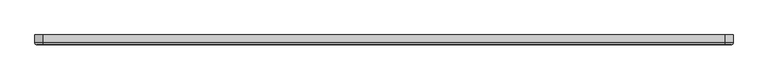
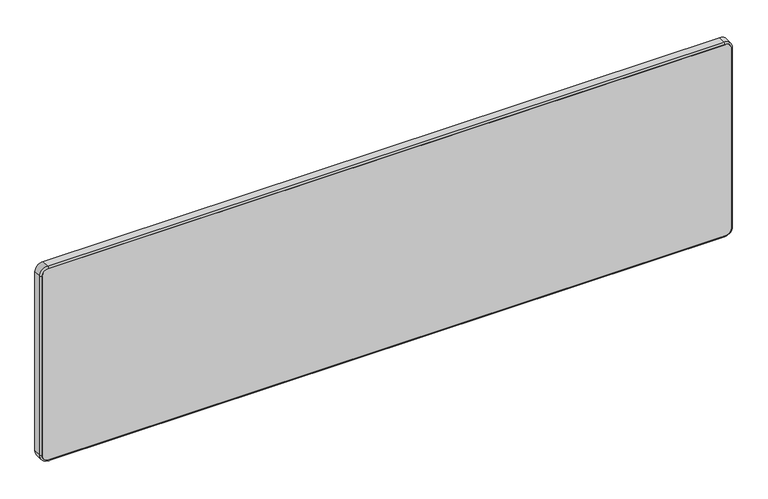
"""IFC4 building model written with IfcOpenShell, lengths in millimetres: furniture geometry, Stance_HC-Camber-Board : SK600E-DFB."""

from ifc_helpers import new_model, si_unit, point, frame, frame_2d, origin, place, context, project, spatial, polyline, circle_curve, ellipse_curve, trimmed, segment, composite_curve, outline, extrude, source, transform, mapped, element, save
from ifc_brep_helpers import plane_surface, cylinder_surface, revolved_surface, advanced_brep


def furniture_9835b887(model_context):
    return source(origin(), model_context, "Body", "SolidModel", [
        extrude(outline(composite_curve([segment(polyline([(403.2249758, 669.925), (403.2249758, -669.925)]), True, "CONTINUOUS"), segment(trimmed(circle_curve(frame_2d((390.525, -669.925)), 12.6999758), [point((403.2249758, -669.925))], [point((390.525, -682.6249758))], False, "CARTESIAN"), True, "CONTINUOUS"), segment(polyline([(390.525, -682.6249758), (15.875, -682.6249758)]), True, "CONTINUOUS"), segment(trimmed(circle_curve(frame_2d((15.875, -669.925)), 12.6999758), [point((15.875, -682.6249758))], [point((3.1750242, -669.925))], False, "CARTESIAN"), True, "CONTINUOUS"), segment(polyline([(3.1750242, -669.925), (3.1750242, 669.925)]), True, "CONTINUOUS"), segment(trimmed(circle_curve(frame_2d((15.875, 669.925)), 12.6999758), [point((3.1750242, 669.925))], [point((15.875, 682.6249758))], False, "CARTESIAN"), True, "CONTINUOUS"), segment(polyline([(15.875, 682.6249758), (390.525, 682.6249758)]), True, "CONTINUOUS"), segment(trimmed(circle_curve(frame_2d((390.525, 669.925)), 12.6999758), [point((390.525, 682.6249758))], [point((403.2249758, 669.925))], False, "CARTESIAN"), True, "CONTINUOUS")], self_intersect=False)), frame((0.0, -19.05, 0.0), z_axis=(0.0, 1.0, 0.0), x_axis=(0.0, 0.0, 1.0)), (0.0, 0.0, 1.0), 19.05),
        advanced_brep(
        [(682.6249758, -19.05, 390.525), (669.925, -19.05, 403.2249758), (669.925, 0.0, 403.2249758), (682.6249758, 0.0, 390.525), (685.8, -15.8749996, 390.525), (669.925, -15.8749996, 406.4), (685.8, 0.0, 390.525), (669.925, 0.0, 406.4), (682.6249758, 0.0, 15.875), (682.6249758, -19.05, 15.875), (685.8, -15.8749996, 15.875), (685.8, 0.0, 15.875), (669.925, -19.05, 3.1750242), (669.925, 0.0, 3.1750242), (669.925, -15.8749996, 0.0), (669.925, 0.0, 0.0), (-669.925, 0.0, 3.1750242), (-669.925, -19.05, 3.1750242), (-669.925, -15.8749996, 0.0), (-669.925, 0.0, 0.0), (-682.6249758, -19.05, 15.875), (-682.6249758, 0.0, 15.875), (-685.8, -15.8749996, 15.875), (-685.8, 0.0, 15.875), (-682.6249758, 0.0, 390.525), (-682.6249758, -19.05, 390.525), (-685.8, -15.8749996, 390.525), (-685.8, 0.0, 390.525), (-669.925, -19.05, 403.2249758), (-669.925, 0.0, 403.2249758), (-669.925, -15.8749996, 406.4), (-669.925, 0.0, 406.4)],
        [
            (0, 1, circle_curve(frame((669.925, -19.05, 390.525), z_axis=(0.0, -1.0, 0.0), x_axis=(0.0, 0.0, 1.0)), 12.6999758)),
            (1, 2),
            (2, 3, circle_curve(frame((669.925, 0.0, 390.525), z_axis=(0.0, 1.0, 0.0), x_axis=(0.0, 0.0, 1.0)), 12.6999758)),
            (3, 0),
            (4, 5, circle_curve(frame((669.925, -15.8749996, 390.525), z_axis=(0.0, -1.0, 0.0), x_axis=(0.0, 0.0, 1.0)), 15.875)),
            (5, 1, circle_curve(frame((669.925, -15.8749996, 403.2249996), z_axis=(1.0, 0.0, 0.0), x_axis=(0.0, 0.0, 1.0)), 3.1750004)),
            (0, 4, circle_curve(frame((682.6249996, -15.8749996, 390.525), z_axis=(0.0, 0.0, 1.0), x_axis=(1.0, 0.0, 0.0)), 3.1750004)),
            (6, 7, circle_curve(frame((669.925, 0.0, 390.525), z_axis=(0.0, -1.0, 0.0), x_axis=(0.0, 0.0, 1.0)), 15.875)),
            (7, 5),
            (4, 6),
            (3, 8),
            (8, 9),
            (9, 0),
            (9, 10, circle_curve(frame((682.6249996, -15.8749996, 15.875), z_axis=(0.0, 0.0, 1.0), x_axis=(1.0, 0.0, 0.0)), 3.1750004)),
            (10, 4),
            (10, 11),
            (11, 6),
            (12, 9, circle_curve(frame((669.925, -19.05, 15.875), z_axis=(0.0, -1.0, 0.0), x_axis=(1.0, 0.0, 0.0)), 12.6999758)),
            (8, 13, circle_curve(frame((669.925, 0.0, 15.875), z_axis=(0.0, 1.0, 0.0), x_axis=(1.0, 0.0, 0.0)), 12.6999758)),
            (13, 12),
            (14, 10, circle_curve(frame((669.925, -15.8749996, 15.875), z_axis=(0.0, -1.0, 0.0), x_axis=(1.0, 0.0, 0.0)), 15.875)),
            (12, 14, circle_curve(frame((669.925, -15.8749996, 3.1750004), z_axis=(1.0, 0.0, 0.0), x_axis=(0.0, 0.0, -1.0)), 3.1750004)),
            (15, 11, circle_curve(frame((669.925, 0.0, 15.875), z_axis=(0.0, -1.0, 0.0), x_axis=(1.0, 0.0, 0.0)), 15.875)),
            (14, 15),
            (13, 16),
            (16, 17),
            (17, 12),
            (17, 18, circle_curve(frame((-669.925, -15.8749996, 3.1750004), z_axis=(1.0, 0.0, 0.0), x_axis=(0.0, 0.0, -1.0)), 3.1750004)),
            (18, 14),
            (18, 19),
            (19, 15),
            (20, 17, circle_curve(frame((-669.925, -19.05, 15.875), z_axis=(0.0, -1.0, 0.0), x_axis=(0.0, 0.0, -1.0)), 12.6999758)),
            (16, 21, circle_curve(frame((-669.925, 0.0, 15.875), z_axis=(0.0, 1.0, 0.0), x_axis=(0.0, 0.0, -1.0)), 12.6999758)),
            (21, 20),
            (22, 18, circle_curve(frame((-669.925, -15.8749996, 15.875), z_axis=(0.0, -1.0, 0.0), x_axis=(0.0, 0.0, -1.0)), 15.875)),
            (20, 22, circle_curve(frame((-682.6249996, -15.8749996, 15.875), z_axis=(0.0, 0.0, -1.0), x_axis=(-1.0, 0.0, 0.0)), 3.1750004)),
            (23, 19, circle_curve(frame((-669.925, 0.0, 15.875), z_axis=(0.0, -1.0, 0.0), x_axis=(0.0, 0.0, -1.0)), 15.875)),
            (22, 23),
            (21, 24),
            (24, 25),
            (25, 20),
            (25, 26, circle_curve(frame((-682.6249996, -15.8749996, 390.525), z_axis=(0.0, 0.0, -1.0), x_axis=(-1.0, 0.0, 0.0)), 3.1750004)),
            (26, 22),
            (26, 27),
            (27, 23),
            (28, 25, circle_curve(frame((-669.925, -19.05, 390.525), z_axis=(0.0, -1.0, 0.0), x_axis=(-1.0, 0.0, 0.0)), 12.6999758)),
            (24, 29, circle_curve(frame((-669.925, 0.0, 390.525), z_axis=(0.0, 1.0, 0.0), x_axis=(-1.0, 0.0, 0.0)), 12.6999758)),
            (29, 28),
            (30, 26, circle_curve(frame((-669.925, -15.8749996, 390.525), z_axis=(0.0, -1.0, 0.0), x_axis=(-1.0, 0.0, 0.0)), 15.875)),
            (28, 30, circle_curve(frame((-669.925, -15.8749996, 403.2249996), z_axis=(-1.0, 0.0, 0.0), x_axis=(0.0, 0.0, 1.0)), 3.1750004)),
            (31, 27, circle_curve(frame((-669.925, 0.0, 390.525), z_axis=(0.0, -1.0, 0.0), x_axis=(-1.0, 0.0, 0.0)), 15.875)),
            (30, 31),
            (29, 2),
            (1, 28),
            (5, 30),
            (7, 31),
        ],
        [
            revolved_surface(polyline([(669.925, 0.0, 403.2249758), (669.925, -19.05, 403.2249758)]), (669.925, 0.0, 390.525), (0.0, 1.0, 0.0)),
            revolved_surface(trimmed(ellipse_curve(frame((669.925, -15.8749996, 403.2249996), z_axis=(-1.0, 0.0, 0.0), x_axis=(0.0, 0.0, 1.0)), 3.1750004, 3.1750004), [point((669.925, -19.05, 403.2249758))], [point((669.925, -15.8749996, 406.4))], True, "CARTESIAN"), (669.925, 0.0, 390.525), (0.0, 1.0, 0.0)),
            cylinder_surface(frame((669.925, 0.0, 390.525), z_axis=(0.0, 1.0, 0.0), x_axis=(0.0, 0.0, 1.0)), 15.875),
            plane_surface(frame((682.6249758, 0.0, 390.525), z_axis=(-1.0, 0.0, 0.0), x_axis=(0.0, 0.0, -1.0))),
            cylinder_surface(frame((682.6249996, -15.8749996, 390.525), z_axis=(0.0, 0.0, 1.0), x_axis=(1.0, 0.0, 0.0)), 3.1750004),
            plane_surface(frame((685.8, -15.8749996, 390.525), z_axis=(1.0, 0.0, 0.0), x_axis=(0.0, 0.0, -1.0))),
            revolved_surface(polyline([(682.6249757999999, 0.0, 15.875), (682.6249757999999, -19.05, 15.875)]), (669.925, 0.0, 15.875), (0.0, 1.0, 0.0)),
            revolved_surface(trimmed(ellipse_curve(frame((682.6249996, -15.8749996, 15.875), z_axis=(0.0, 0.0, 1.0), x_axis=(1.0, 0.0, 0.0)), 3.1750004, 3.1750004), [point((682.6249758, -19.05, 15.875))], [point((685.8, -15.8749996, 15.875))], True, "CARTESIAN"), (669.925, 0.0, 15.875), (0.0, 1.0, 0.0)),
            cylinder_surface(frame((669.925, 0.0, 15.875), z_axis=(0.0, 1.0, 0.0), x_axis=(1.0, 0.0, 0.0)), 15.875),
            plane_surface(frame((669.925, 0.0, 3.1750242), z_axis=(0.0, 0.0, 1.0), x_axis=(-1.0, 0.0, 0.0))),
            cylinder_surface(frame((669.925, -15.8749996, 3.1750004), z_axis=(1.0, 0.0, 0.0), x_axis=(0.0, 0.0, -1.0)), 3.1750004),
            plane_surface(frame((669.925, -15.8749996, 0.0), z_axis=(0.0, 0.0, -1.0), x_axis=(-1.0, 0.0, 0.0))),
            revolved_surface(polyline([(-669.925, 0.0, 3.1750241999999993), (-669.925, -19.05, 3.1750241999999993)]), (-669.925, 0.0, 15.875), (0.0, 1.0, 0.0)),
            revolved_surface(trimmed(ellipse_curve(frame((-669.925, -15.8749996, 3.1750004), z_axis=(1.0, 0.0, 0.0), x_axis=(0.0, 0.0, -1.0)), 3.1750004, 3.1750004), [point((-669.925, -19.05, 3.1750242))], [point((-669.925, -15.8749996, 0.0))], True, "CARTESIAN"), (-669.925, 0.0, 15.875), (0.0, 1.0, 0.0)),
            cylinder_surface(frame((-669.925, 0.0, 15.875), z_axis=(0.0, 1.0, 0.0), x_axis=(0.0, 0.0, -1.0)), 15.875),
            plane_surface(frame((-682.6249758, 0.0, 15.875), z_axis=(1.0, 0.0, 0.0), x_axis=(0.0, 0.0, 1.0))),
            cylinder_surface(frame((-682.6249996, -15.8749996, 15.875), z_axis=(0.0, 0.0, -1.0), x_axis=(-1.0, 0.0, 0.0)), 3.1750004),
            plane_surface(frame((-685.8, -15.8749996, 15.875), z_axis=(-1.0, 0.0, 0.0), x_axis=(0.0, 0.0, 1.0))),
            revolved_surface(polyline([(-682.6249757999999, 0.0, 390.525), (-682.6249757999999, -19.05, 390.525)]), (-669.925, 0.0, 390.525), (0.0, 1.0, 0.0)),
            revolved_surface(trimmed(ellipse_curve(frame((-682.6249996, -15.8749996, 390.525), z_axis=(0.0, 0.0, -1.0), x_axis=(-1.0, 0.0, 0.0)), 3.1750004, 3.1750004), [point((-682.6249758, -19.05, 390.525))], [point((-685.8, -15.8749996, 390.525))], True, "CARTESIAN"), (-669.925, 0.0, 390.525), (0.0, 1.0, 0.0)),
            cylinder_surface(frame((-669.925, 0.0, 390.525), z_axis=(0.0, 1.0, 0.0), x_axis=(-1.0, 0.0, 0.0)), 15.875),
            plane_surface(frame((-669.925, 0.0, 403.2249758), z_axis=(0.0, 0.0, -1.0), x_axis=(1.0, 0.0, 0.0))),
            cylinder_surface(frame((-669.925, -15.8749996, 403.2249996), z_axis=(-1.0, 0.0, 0.0), x_axis=(0.0, 0.0, 1.0)), 3.1750004),
            plane_surface(frame((-669.925, -15.8749996, 406.4), z_axis=(0.0, 0.0, 1.0), x_axis=(1.0, 0.0, 0.0))),
            plane_surface(frame((-669.925, 0.0, 406.4), z_axis=(0.0, 1.0, 0.0), x_axis=(1.0, 0.0, 0.0))),
        ],
        [
            (0, [[1, 2, 3, 4]]),
            (1, [[5, 6, -1, 7]]),
            (2, [[8, 9, -5, 10]]),
            (3, [[-4, 11, 12, 13]]),
            (4, [[-7, -13, 14, 15]]),
            (5, [[-10, -15, 16, 17]]),
            (6, [[18, -12, 19, 20]]),
            (7, [[21, -14, -18, 22]]),
            (8, [[23, -16, -21, 24]]),
            (9, [[-20, 25, 26, 27]]),
            (10, [[-22, -27, 28, 29]]),
            (11, [[-24, -29, 30, 31]]),
            (12, [[32, -26, 33, 34]]),
            (13, [[35, -28, -32, 36]]),
            (14, [[37, -30, -35, 38]]),
            (15, [[-34, 39, 40, 41]]),
            (16, [[-36, -41, 42, 43]]),
            (17, [[-38, -43, 44, 45]]),
            (18, [[46, -40, 47, 48]]),
            (19, [[49, -42, -46, 50]]),
            (20, [[51, -44, -49, 52]]),
            (21, [[-48, 53, -2, 54]]),
            (22, [[-50, -54, -6, 55]]),
            (23, [[-52, -55, -9, 56]]),
            (24, [[-45, -51, -56, -8, -17, -23, -31, -37], [-53, -47, -39, -33, -25, -19, -11, -3]]),
        ],
    ),
    ])


if __name__ == "__main__":
    model = new_model("IFC4")
    model_context = context("Model", 3, world=origin())
    ifc_project = project(units=[si_unit("LENGTHUNIT", "METRE", prefix="MILLI")], contexts=[model_context])
    site = spatial("IfcSite", under=ifc_project)
    building = spatial("IfcBuilding", under=site)
    placement = place(None, origin())
    furniture_shape = furniture_9835b887(model_context)
    element("IfcFurniture", 1, ObjectType="Stance_HC-Camber-Board : SK600E-DFB", at=placement, inside=building, context=model_context, shape_type="MappedRepresentation", body=[
        mapped(furniture_shape, transform((0.0, 0.0, 0.0), x_axis=(1.0, 0.0, 0.0), y_axis=(0.0, 1.0, 0.0), z_axis=(0.0, 0.0, 1.0))),
    ])
    save(model, "model.ifc")
